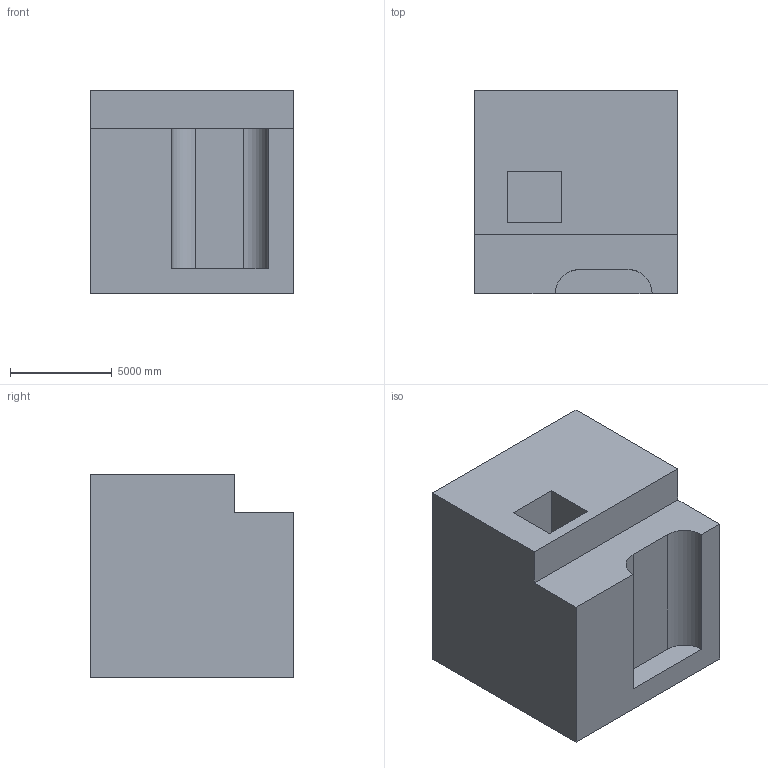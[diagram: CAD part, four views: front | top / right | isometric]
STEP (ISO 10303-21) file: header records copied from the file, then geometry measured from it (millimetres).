
FILE_DESCRIPTION (( 'STEP AP203' ), '1' );
FILE_NAME ('351.STEP', '2022-07-28T14:26:51', ( 'user' ), ( '' ), 'SwSTEP 2.0', 'SolidWorks 2021', '' );
FILE_SCHEMA (( 'CONFIG_CONTROL_DESIGN' ));
Length unit declared in the file: centimetre
Products named in the file (1): 351
Bounding box: 10000 x 10000 x 10000 mm (x, y, z)
Volume: 867921771985.1 mm3; surface area: 670638271.9 mm2
Topology: 1 solids, 1 shells, 21 faces, 51 edges, 34 vertices
Faces by surface type: plane 19, cylinder 2
Entity records: 686 total; most frequent: CARTESIAN_POINT 107, ORIENTED_EDGE 102, DIRECTION 99, EDGE_CURVE 51, LINE 47, VECTOR 47, VERTEX_POINT 34, AXIS2_PLACEMENT_3D 26
